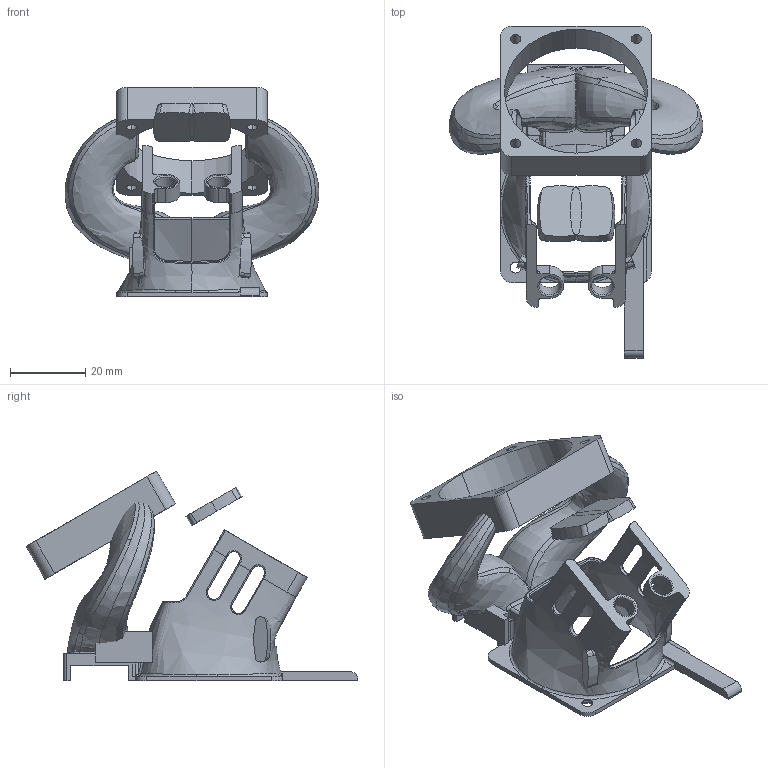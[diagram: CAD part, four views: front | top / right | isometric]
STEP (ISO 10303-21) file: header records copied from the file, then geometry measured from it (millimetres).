
FILE_DESCRIPTION (( 'STEP AP214' ), '1' );
FILE_NAME ('MiniMe_Hotend_Duct_5015_v4.STEP', '2020-06-15T08:42:04', ( '' ), ( '' ), 'SwSTEP 2.0', 'SolidWorks 2017', '' );
FILE_SCHEMA (( 'AUTOMOTIVE_DESIGN' ));
Length unit declared in the file: millimetre
Products named in the file (2): MiniMe_Hotend_Duct_5015_v4
Bounding box: 67.36 x 88.04 x 55.66 mm (x, y, z)
Volume: 14988 mm3; surface area: 22593.3 mm2
Topology: 7 solids, 7 shells, 422 faces, 1151 edges, 728 vertices
Faces by surface type: bspline 186, plane 107, cylinder 101, cone 16, torus 10, sphere 2
Entity records: 166312 total; most frequent: CARTESIAN_POINT 156999, ORIENTED_EDGE 2294, DIRECTION 1403, EDGE_CURVE 1147, VERTEX_POINT 728, AXIS2_PLACEMENT_3D 526, B_SPLINE_CURVE_WITH_KNOTS 470, EDGE_LOOP 447
